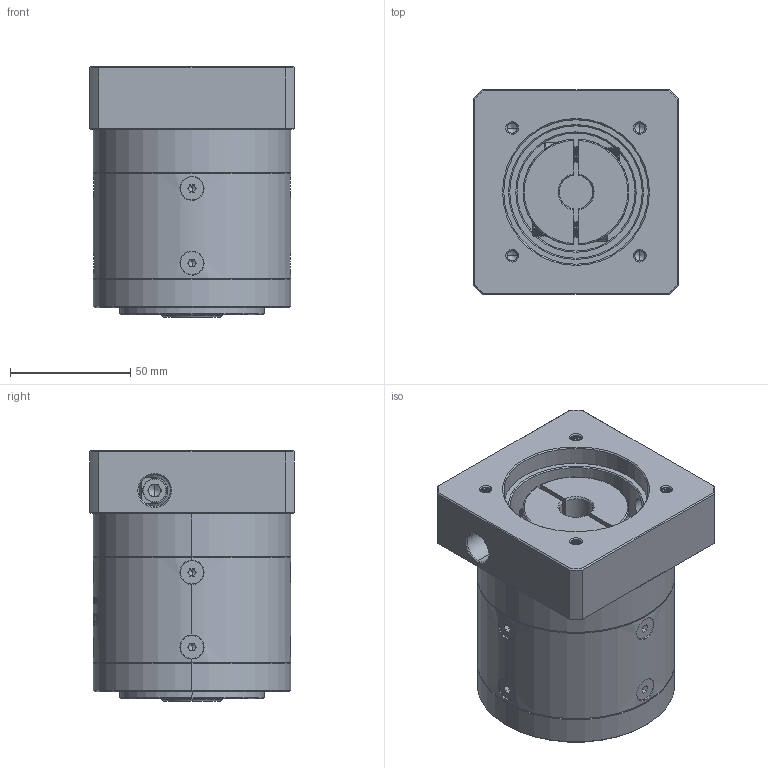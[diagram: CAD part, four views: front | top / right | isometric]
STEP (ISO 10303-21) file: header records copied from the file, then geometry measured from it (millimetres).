
FILE_DESCRIPTION (( 'STEP AP214' ), '1' );
FILE_NAME ('ZE80-K15-L1-14-60-75-M5.step', '2022-05-08T05:56:13', ( '' ), ( 'Microsoft' ), 'SwSTEP 2.0', 'SolidWorks 2016', '' );
FILE_SCHEMA (( 'AUTOMOTIVE_DESIGN' ));
Length unit declared in the file: millimetre
Products named in the file (1): ZE80-K15-L1-14-60-75-M5
Bounding box: 85 x 85 x 104 mm (x, y, z)
Volume: 512767.8 mm3; surface area: 83259.8 mm2
Topology: 13 solids, 13 shells, 2031 faces, 5290 edges, 3347 vertices
Faces by surface type: plane 884, cylinder 473, cone 335, bspline 322, torus 17
Entity records: 112852 total; most frequent: CARTESIAN_POINT 44845, ORIENTED_EDGE 10508, DIRECTION 8143, EDGE_CURVE 5254, VERTEX_POINT 3347, VECTOR 2833, LINE 2833, AXIS2_PLACEMENT_3D 2655
